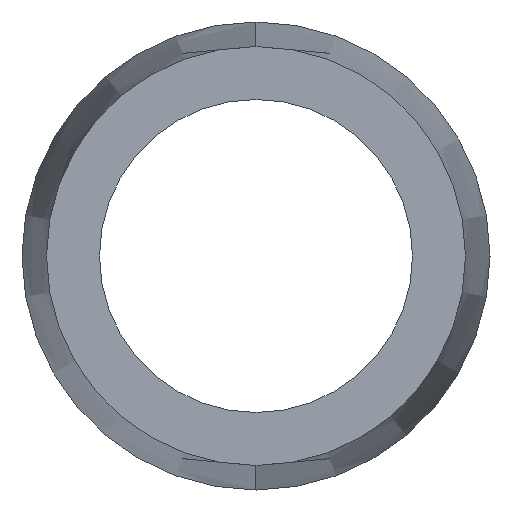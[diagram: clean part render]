
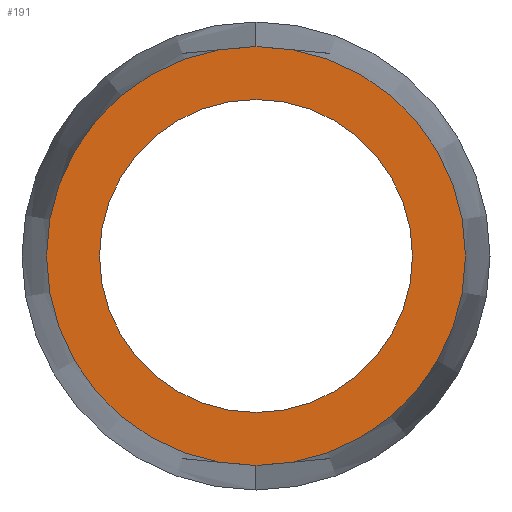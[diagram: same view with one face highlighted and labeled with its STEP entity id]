
A CAD part, left-side view. The second image highlights one B-rep face of the part: STEP entity #191.
In plain terms, the highlighted planar face has unit normal (-1, 0, 0).
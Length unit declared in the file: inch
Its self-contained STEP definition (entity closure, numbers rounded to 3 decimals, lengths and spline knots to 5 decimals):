
#8 = EDGE_CURVE ( 'NONE', #174, #216, #126, .T. ) ;
#10 = DIRECTION ( 'NONE',  ( -1., 0., 0. ) ) ;
#12 = CARTESIAN_POINT ( 'NONE',  ( 0., 0., 0. ) ) ;
#20 = EDGE_CURVE ( 'NONE', #250, #24, #273, .T. ) ;
#24 = VERTEX_POINT ( 'NONE', #350 ) ;
#26 = DIRECTION ( 'NONE',  ( -1., 0., 0. ) ) ;
#34 = DIRECTION ( 'NONE',  ( 0., 0., 1. ) ) ;
#50 = EDGE_CURVE ( 'NONE', #216, #174, #221, .T. ) ;
#53 = DIRECTION ( 'NONE',  ( 0., 0., 1. ) ) ;
#69 = DIRECTION ( 'NONE',  ( 0., 0., 1. ) ) ;
#73 = CARTESIAN_POINT ( 'NONE',  ( 0., 0.13987, 0. ) ) ;
#77 = AXIS2_PLACEMENT_3D ( 'NONE', #95, #10, #34 ) ;
#81 = FACE_BOUND ( 'NONE', #145, .T. ) ;
#82 = CARTESIAN_POINT ( 'NONE',  ( 0., 0., 0. ) ) ;
#95 = CARTESIAN_POINT ( 'NONE',  ( 0., 0., 0. ) ) ;
#100 = AXIS2_PLACEMENT_3D ( 'NONE', #82, #26, #53 ) ;
#102 = DIRECTION ( 'NONE',  ( -1., 0., 0. ) ) ;
#109 = DIRECTION ( 'NONE',  ( 0., 0., 1. ) ) ;
#110 = AXIS2_PLACEMENT_3D ( 'NONE', #275, #270, #109 ) ;
#126 = CIRCLE ( 'NONE', #110, 0.13987 ) ;
#129 = ORIENTED_EDGE ( 'NONE', *, *, #8, .T. ) ;
#132 = ORIENTED_EDGE ( 'NONE', *, *, #20, .F. ) ;
#140 = ORIENTED_EDGE ( 'NONE', *, *, #147, .F. ) ;
#145 = EDGE_LOOP ( 'NONE', ( #140, #132 ) ) ;
#147 = EDGE_CURVE ( 'NONE', #24, #250, #271, .T. ) ;
#149 = PLANE ( 'NONE',  #168 ) ;
#168 = AXIS2_PLACEMENT_3D ( 'NONE', #73, #284, #289 ) ;
#174 = VERTEX_POINT ( 'NONE', #337 ) ;
#178 = CARTESIAN_POINT ( 'NONE',  ( 0., 0., -0.13987 ) ) ;
#191 = ADVANCED_FACE ( 'NONE', ( #81, #300 ), #149, .F. ) ;
#216 = VERTEX_POINT ( 'NONE', #178 ) ;
#221 = CIRCLE ( 'NONE', #77, 0.13987 ) ;
#250 = VERTEX_POINT ( 'NONE', #294 ) ;
#270 = DIRECTION ( 'NONE',  ( -1., 0., 0. ) ) ;
#271 = CIRCLE ( 'NONE', #322, 0.1045 ) ;
#273 = CIRCLE ( 'NONE', #100, 0.1045 ) ;
#275 = CARTESIAN_POINT ( 'NONE',  ( 0., 0., 0. ) ) ;
#284 = DIRECTION ( 'NONE',  ( 1., 0., 0. ) ) ;
#289 = DIRECTION ( 'NONE',  ( 0., 0., -1. ) ) ;
#294 = CARTESIAN_POINT ( 'NONE',  ( 0., 0., -0.1045 ) ) ;
#300 = FACE_OUTER_BOUND ( 'NONE', #310, .T. ) ;
#310 = EDGE_LOOP ( 'NONE', ( #348, #129 ) ) ;
#322 = AXIS2_PLACEMENT_3D ( 'NONE', #12, #102, #69 ) ;
#337 = CARTESIAN_POINT ( 'NONE',  ( 0., 0., 0.13987 ) ) ;
#348 = ORIENTED_EDGE ( 'NONE', *, *, #50, .T. ) ;
#350 = CARTESIAN_POINT ( 'NONE',  ( 0., 0., 0.1045 ) ) ;
